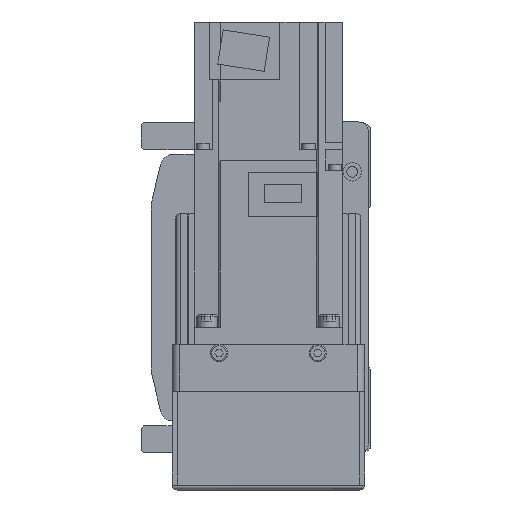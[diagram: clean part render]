
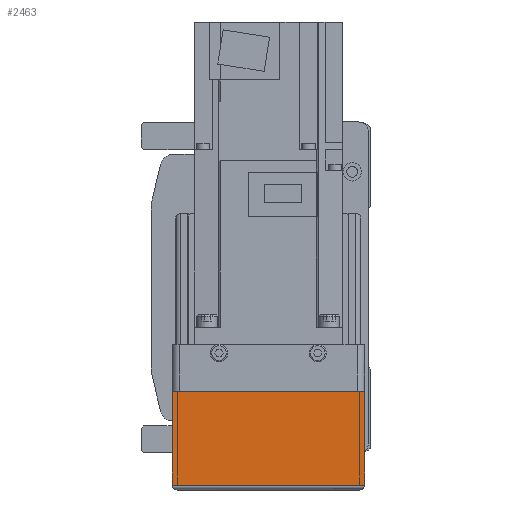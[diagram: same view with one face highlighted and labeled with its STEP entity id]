
A CAD part, left-side view. The second image highlights one B-rep face of the part: STEP entity #2463.
In plain terms, the highlighted planar face has unit normal (-1, 0, 0).
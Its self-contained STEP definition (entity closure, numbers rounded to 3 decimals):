
#2463 = ADVANCED_FACE( '', ( #5324 ), #5325, .F. );
#5324 = FACE_OUTER_BOUND( '', #8518, .T. );
#5325 = PLANE( '', #8519 );
#8518 = EDGE_LOOP( '', ( #15490, #15491, #15492, #15493 ) );
#8519 = AXIS2_PLACEMENT_3D( '', #15494, #15495, #15496 );
#15490 = ORIENTED_EDGE( '', *, *, #20351, .F. );
#15491 = ORIENTED_EDGE( '', *, *, #18399, .F. );
#15492 = ORIENTED_EDGE( '', *, *, #19883, .T. );
#15493 = ORIENTED_EDGE( '', *, *, #20263, .F. );
#15494 = CARTESIAN_POINT( '', ( -158., 36., 7. ) );
#15495 = DIRECTION( '', ( 1., 0., 0. ) );
#15496 = DIRECTION( '', ( 0., 0., -1. ) );
#18399 = EDGE_CURVE( '', #21914, #21916, #21917, .T. );
#19883 = EDGE_CURVE( '', #21914, #24392, #24394, .T. );
#20263 = EDGE_CURVE( '', #24020, #24392, #24954, .T. );
#20351 = EDGE_CURVE( '', #21916, #24020, #25076, .T. );
#21914 = VERTEX_POINT( '', #27087 );
#21916 = VERTEX_POINT( '', #27090 );
#21917 = LINE( '', #27091, #27092 );
#24020 = VERTEX_POINT( '', #30072 );
#24392 = VERTEX_POINT( '', #30659 );
#24394 = LINE( '', #30661, #30662 );
#24954 = LINE( '', #31461, #31462 );
#25076 = LINE( '', #31694, #31695 );
#27087 = CARTESIAN_POINT( '', ( -158., 39., -50. ) );
#27090 = CARTESIAN_POINT( '', ( -158., 39., -12.1 ) );
#27091 = CARTESIAN_POINT( '', ( -158., 39., -50. ) );
#27092 = VECTOR( '', #34216, 1000. );
#30072 = CARTESIAN_POINT( '', ( -158., -39., -12.1 ) );
#30659 = CARTESIAN_POINT( '', ( -158., -39., -50. ) );
#30661 = CARTESIAN_POINT( '', ( -158., 40., -50. ) );
#30662 = VECTOR( '', #36105, 1000. );
#31461 = CARTESIAN_POINT( '', ( -158., -39., -12.1 ) );
#31462 = VECTOR( '', #36556, 1000. );
#31694 = CARTESIAN_POINT( '', ( -158., 50., -12.1 ) );
#31695 = VECTOR( '', #36643, 1000. );
#34216 = DIRECTION( '', ( 0., 0., 1. ) );
#36105 = DIRECTION( '', ( 0., -1., 0. ) );
#36556 = DIRECTION( '', ( 0., 0., -1. ) );
#36643 = DIRECTION( '', ( 0., -1., 0. ) );
